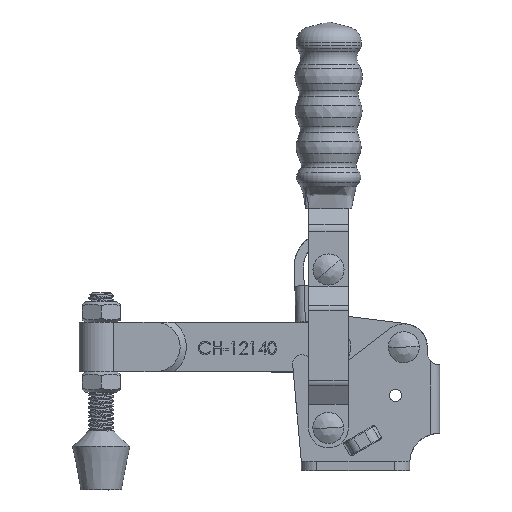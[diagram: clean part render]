
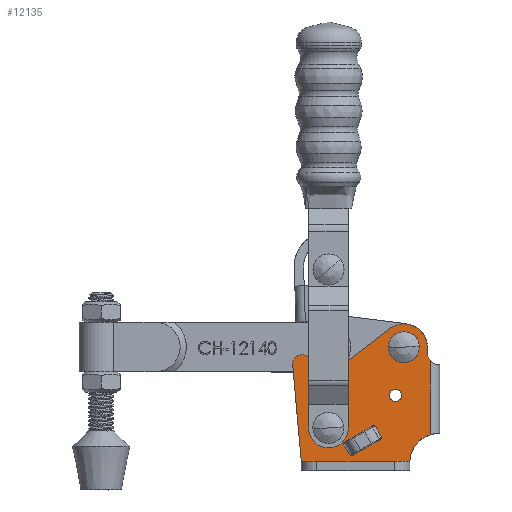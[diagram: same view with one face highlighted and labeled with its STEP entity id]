
A CAD part, top view. The second image highlights one B-rep face of the part: STEP entity #12135.
In plain terms, the highlighted planar face has unit normal (0, 0, 1).
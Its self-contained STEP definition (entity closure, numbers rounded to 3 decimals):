
#333=FACE_BOUND('',#2015,.T.);
#334=FACE_BOUND('',#2016,.T.);
#335=FACE_BOUND('',#2017,.T.);
#336=FACE_BOUND('',#2018,.T.);
#650=PLANE('',#13139);
#1305=FACE_OUTER_BOUND('',#2014,.T.);
#2014=EDGE_LOOP('',(#11013,#11014,#11015,#11016,#11017,#11018,#11019,#11020,
#11021,#11022,#11023,#11024));
#2015=EDGE_LOOP('',(#11025,#11026));
#2016=EDGE_LOOP('',(#11027,#11028));
#2017=EDGE_LOOP('',(#11029,#11030));
#2018=EDGE_LOOP('',(#11031,#11032,#11033,#11034,#11035,#11036,#11037,#11038));
#2380=CIRCLE('',#13114,3.);
#2382=CIRCLE('',#13117,1.95);
#2385=CIRCLE('',#13120,1.95);
#2386=CIRCLE('',#13122,3.2);
#2389=CIRCLE('',#13125,3.2);
#2390=CIRCLE('',#13127,3.2);
#2393=CIRCLE('',#13130,3.2);
#2400=CIRCLE('',#13140,9.5);
#2401=CIRCLE('',#13141,4.);
#2402=CIRCLE('',#13142,7.5);
#2403=CIRCLE('',#13143,7.);
#2898=B_SPLINE_CURVE_WITH_KNOTS('',3,(#45287,#45288,#45289,#45290),
 .UNSPECIFIED.,.F.,.F.,(4,4),(-0.085,0.),.UNSPECIFIED.);
#2899=B_SPLINE_CURVE_WITH_KNOTS('',3,(#45294,#45295,#45296,#45297),
 .UNSPECIFIED.,.F.,.F.,(4,4),(-0.278,-0.193),
 .UNSPECIFIED.);
#2900=B_SPLINE_CURVE_WITH_KNOTS('',3,(#45301,#45302,#45303,#45304),
 .UNSPECIFIED.,.F.,.F.,(4,4),(-0.085,0.),.UNSPECIFIED.);
#2901=B_SPLINE_CURVE_WITH_KNOTS('',3,(#45307,#45308,#45309,#45310),
 .UNSPECIFIED.,.F.,.F.,(4,4),(-0.278,-0.193),
 .UNSPECIFIED.);
#3777=LINE('',#45264,#4741);
#3778=LINE('',#45266,#4742);
#3779=LINE('',#45270,#4743);
#3780=LINE('',#45274,#4744);
#3781=LINE('',#45278,#4745);
#3782=LINE('',#45281,#4746);
#3783=LINE('',#45282,#4747);
#3784=LINE('',#45285,#4748);
#3785=LINE('',#45292,#4749);
#3786=LINE('',#45299,#4750);
#3787=LINE('',#45306,#4751);
#4741=VECTOR('',#15589,1000.);
#4742=VECTOR('',#15590,1000.);
#4743=VECTOR('',#15593,1000.);
#4744=VECTOR('',#15596,1000.);
#4745=VECTOR('',#15599,1000.);
#4746=VECTOR('',#15602,1000.);
#4747=VECTOR('',#15603,1000.);
#4748=VECTOR('',#15604,1000.);
#4749=VECTOR('',#15605,1000.);
#4750=VECTOR('',#15606,1000.);
#4751=VECTOR('',#15607,1000.);
#5906=VERTEX_POINT('',#45184);
#5907=VERTEX_POINT('',#45185);
#5910=VERTEX_POINT('',#45193);
#5911=VERTEX_POINT('',#45194);
#5914=VERTEX_POINT('',#45203);
#5915=VERTEX_POINT('',#45204);
#5918=VERTEX_POINT('',#45213);
#5919=VERTEX_POINT('',#45214);
#5940=VERTEX_POINT('',#45262);
#5941=VERTEX_POINT('',#45263);
#5942=VERTEX_POINT('',#45265);
#5943=VERTEX_POINT('',#45267);
#5944=VERTEX_POINT('',#45269);
#5945=VERTEX_POINT('',#45271);
#5946=VERTEX_POINT('',#45273);
#5947=VERTEX_POINT('',#45275);
#5948=VERTEX_POINT('',#45277);
#5949=VERTEX_POINT('',#45279);
#5950=VERTEX_POINT('',#45283);
#5951=VERTEX_POINT('',#45284);
#5952=VERTEX_POINT('',#45286);
#5953=VERTEX_POINT('',#45291);
#5954=VERTEX_POINT('',#45293);
#5955=VERTEX_POINT('',#45298);
#5956=VERTEX_POINT('',#45300);
#5957=VERTEX_POINT('',#45305);
#7624=EDGE_CURVE('',#5906,#5907,#2380,.T.);
#7628=EDGE_CURVE('',#5910,#5911,#2382,.T.);
#7632=EDGE_CURVE('',#5911,#5910,#2385,.T.);
#7633=EDGE_CURVE('',#5914,#5915,#2386,.T.);
#7637=EDGE_CURVE('',#5915,#5914,#2389,.T.);
#7638=EDGE_CURVE('',#5918,#5919,#2390,.T.);
#7642=EDGE_CURVE('',#5919,#5918,#2393,.T.);
#7662=EDGE_CURVE('',#5940,#5941,#3777,.T.);
#7663=EDGE_CURVE('',#5942,#5940,#3778,.T.);
#7664=EDGE_CURVE('',#5942,#5943,#2400,.T.);
#7665=EDGE_CURVE('',#5943,#5944,#3779,.T.);
#7666=EDGE_CURVE('',#5944,#5945,#2401,.T.);
#7667=EDGE_CURVE('',#5945,#5946,#3780,.T.);
#7668=EDGE_CURVE('',#5946,#5947,#2402,.T.);
#7669=EDGE_CURVE('',#5947,#5948,#3781,.T.);
#7670=EDGE_CURVE('',#5948,#5949,#2403,.T.);
#7671=EDGE_CURVE('',#5949,#5906,#3782,.T.);
#7672=EDGE_CURVE('',#5907,#5941,#3783,.T.);
#7673=EDGE_CURVE('',#5950,#5951,#3784,.T.);
#7674=EDGE_CURVE('',#5950,#5952,#2898,.T.);
#7675=EDGE_CURVE('',#5952,#5953,#3785,.T.);
#7676=EDGE_CURVE('',#5953,#5954,#2899,.T.);
#7677=EDGE_CURVE('',#5955,#5954,#3786,.T.);
#7678=EDGE_CURVE('',#5955,#5956,#2900,.T.);
#7679=EDGE_CURVE('',#5956,#5957,#3787,.T.);
#7680=EDGE_CURVE('',#5957,#5951,#2901,.T.);
#11013=ORIENTED_EDGE('',*,*,#7662,.F.);
#11014=ORIENTED_EDGE('',*,*,#7663,.F.);
#11015=ORIENTED_EDGE('',*,*,#7664,.T.);
#11016=ORIENTED_EDGE('',*,*,#7665,.T.);
#11017=ORIENTED_EDGE('',*,*,#7666,.T.);
#11018=ORIENTED_EDGE('',*,*,#7667,.T.);
#11019=ORIENTED_EDGE('',*,*,#7668,.T.);
#11020=ORIENTED_EDGE('',*,*,#7669,.T.);
#11021=ORIENTED_EDGE('',*,*,#7670,.T.);
#11022=ORIENTED_EDGE('',*,*,#7671,.T.);
#11023=ORIENTED_EDGE('',*,*,#7624,.T.);
#11024=ORIENTED_EDGE('',*,*,#7672,.T.);
#11025=ORIENTED_EDGE('',*,*,#7633,.F.);
#11026=ORIENTED_EDGE('',*,*,#7637,.F.);
#11027=ORIENTED_EDGE('',*,*,#7638,.F.);
#11028=ORIENTED_EDGE('',*,*,#7642,.F.);
#11029=ORIENTED_EDGE('',*,*,#7628,.F.);
#11030=ORIENTED_EDGE('',*,*,#7632,.F.);
#11031=ORIENTED_EDGE('',*,*,#7673,.F.);
#11032=ORIENTED_EDGE('',*,*,#7674,.T.);
#11033=ORIENTED_EDGE('',*,*,#7675,.T.);
#11034=ORIENTED_EDGE('',*,*,#7676,.T.);
#11035=ORIENTED_EDGE('',*,*,#7677,.F.);
#11036=ORIENTED_EDGE('',*,*,#7678,.T.);
#11037=ORIENTED_EDGE('',*,*,#7679,.T.);
#11038=ORIENTED_EDGE('',*,*,#7680,.T.);
#12135=ADVANCED_FACE('',(#1305,#333,#334,#335,#336),#650,.T.);
#13114=AXIS2_PLACEMENT_3D('',#45186,#15519,#15520);
#13117=AXIS2_PLACEMENT_3D('',#45195,#15527,#15528);
#13120=AXIS2_PLACEMENT_3D('',#45201,#15534,#15535);
#13122=AXIS2_PLACEMENT_3D('',#45205,#15538,#15539);
#13125=AXIS2_PLACEMENT_3D('',#45211,#15545,#15546);
#13127=AXIS2_PLACEMENT_3D('',#45215,#15549,#15550);
#13130=AXIS2_PLACEMENT_3D('',#45221,#15556,#15557);
#13139=AXIS2_PLACEMENT_3D('',#45261,#15587,#15588);
#13140=AXIS2_PLACEMENT_3D('',#45268,#15591,#15592);
#13141=AXIS2_PLACEMENT_3D('',#45272,#15594,#15595);
#13142=AXIS2_PLACEMENT_3D('',#45276,#15597,#15598);
#13143=AXIS2_PLACEMENT_3D('',#45280,#15600,#15601);
#15519=DIRECTION('center_axis',(0.,0.,1.));
#15520=DIRECTION('ref_axis',(1.,0.,0.));
#15527=DIRECTION('center_axis',(0.,0.,1.));
#15528=DIRECTION('ref_axis',(1.,0.,0.));
#15534=DIRECTION('center_axis',(0.,0.,1.));
#15535=DIRECTION('ref_axis',(1.,0.,0.));
#15538=DIRECTION('center_axis',(0.,0.,1.));
#15539=DIRECTION('ref_axis',(1.,0.,0.));
#15545=DIRECTION('center_axis',(0.,0.,1.));
#15546=DIRECTION('ref_axis',(1.,0.,0.));
#15549=DIRECTION('center_axis',(0.,0.,1.));
#15550=DIRECTION('ref_axis',(1.,0.,0.));
#15556=DIRECTION('center_axis',(0.,0.,1.));
#15557=DIRECTION('ref_axis',(1.,0.,0.));
#15587=DIRECTION('center_axis',(0.,0.,1.));
#15588=DIRECTION('ref_axis',(1.,0.,0.));
#15589=DIRECTION('',(-1.,0.,0.));
#15590=DIRECTION('',(0.,1.,0.));
#15591=DIRECTION('center_axis',(0.,0.,-1.));
#15592=DIRECTION('ref_axis',(1.,0.,0.));
#15593=DIRECTION('',(0.,1.,0.));
#15594=DIRECTION('center_axis',(0.,0.,-1.));
#15595=DIRECTION('ref_axis',(1.,0.,0.));
#15596=DIRECTION('',(0.,1.,0.));
#15597=DIRECTION('center_axis',(0.,0.,1.));
#15598=DIRECTION('ref_axis',(1.,0.,0.));
#15599=DIRECTION('',(-0.792,-0.611,0.));
#15600=DIRECTION('center_axis',(0.,0.,-1.));
#15601=DIRECTION('ref_axis',(1.,0.,0.));
#15602=DIRECTION('',(-0.677,0.736,0.));
#15603=DIRECTION('',(0.09,-0.996,0.));
#15604=DIRECTION('',(0.866,0.5,0.));
#15605=DIRECTION('',(-0.5,0.866,0.));
#15606=DIRECTION('',(-0.866,-0.5,0.));
#15607=DIRECTION('',(0.5,-0.866,0.));
#45184=CARTESIAN_POINT('',(-32.494,36.33,12.));
#45185=CARTESIAN_POINT('',(-37.691,34.031,12.));
#45186=CARTESIAN_POINT('Origin',(-34.703,34.3,12.));
#45193=CARTESIAN_POINT('',(-6.55,24.2,12.));
#45194=CARTESIAN_POINT('',(-2.65,24.2,12.));
#45195=CARTESIAN_POINT('Origin',(-4.6,24.2,12.));
#45201=CARTESIAN_POINT('Origin',(-4.6,24.2,12.));
#45203=CARTESIAN_POINT('',(-29.4,13.7,12.));
#45204=CARTESIAN_POINT('',(-23.,13.7,12.));
#45205=CARTESIAN_POINT('Origin',(-26.2,13.7,12.));
#45211=CARTESIAN_POINT('Origin',(-26.2,13.7,12.));
#45213=CARTESIAN_POINT('',(-5.1,39.7,12.));
#45214=CARTESIAN_POINT('',(1.3,39.7,12.));
#45215=CARTESIAN_POINT('Origin',(-1.9,39.7,12.));
#45221=CARTESIAN_POINT('Origin',(-1.9,39.7,12.));
#45261=CARTESIAN_POINT('Origin',(9.5,2.5,12.));
#45262=CARTESIAN_POINT('',(0.,3.,12.));
#45263=CARTESIAN_POINT('',(-34.9,3.,12.));
#45264=CARTESIAN_POINT('',(0.,3.,12.));
#45265=CARTESIAN_POINT('',(0.,2.5,12.));
#45266=CARTESIAN_POINT('',(0.,0.,12.));
#45267=CARTESIAN_POINT('',(6.6,11.547,12.));
#45268=CARTESIAN_POINT('Origin',(9.5,2.5,12.));
#45269=CARTESIAN_POINT('',(6.6,35.354,12.));
#45270=CARTESIAN_POINT('',(6.6,34.,12.));
#45271=CARTESIAN_POINT('',(5.6,38.,12.));
#45272=CARTESIAN_POINT('Origin',(9.6,38.,12.));
#45273=CARTESIAN_POINT('',(5.6,39.7,12.));
#45274=CARTESIAN_POINT('',(5.6,39.7,12.));
#45275=CARTESIAN_POINT('',(-6.481,45.639,12.));
#45276=CARTESIAN_POINT('Origin',(-1.9,39.7,12.));
#45277=CARTESIAN_POINT('',(-21.625,33.957,12.));
#45278=CARTESIAN_POINT('',(-21.625,33.957,12.));
#45279=CARTESIAN_POINT('',(-31.053,34.763,12.));
#45280=CARTESIAN_POINT('Origin',(-25.9,39.5,12.));
#45281=CARTESIAN_POINT('',(-32.494,36.33,12.));
#45282=CARTESIAN_POINT('',(-34.9,3.,12.));
#45283=CARTESIAN_POINT('',(-18.317,4.914,12.));
#45284=CARTESIAN_POINT('',(-9.583,9.956,12.));
#45285=CARTESIAN_POINT('',(-18.28,4.935,12.));
#45286=CARTESIAN_POINT('',(-19.186,4.758,12.));
#45287=CARTESIAN_POINT('Ctrl Pts',(-18.317,4.914,12.));
#45288=CARTESIAN_POINT('Ctrl Pts',(-18.562,4.772,12.));
#45289=CARTESIAN_POINT('Ctrl Pts',(-18.903,4.765,12.));
#45290=CARTESIAN_POINT('Ctrl Pts',(-19.186,4.758,12.));
#45291=CARTESIAN_POINT('',(-21.386,8.569,12.));
#45292=CARTESIAN_POINT('',(-21.536,8.829,12.));
#45293=CARTESIAN_POINT('',(-20.817,9.244,12.));
#45294=CARTESIAN_POINT('Ctrl Pts',(-21.386,8.569,12.));
#45295=CARTESIAN_POINT('Ctrl Pts',(-21.239,8.811,12.));
#45296=CARTESIAN_POINT('Ctrl Pts',(-21.062,9.102,12.));
#45297=CARTESIAN_POINT('Ctrl Pts',(-20.817,9.244,12.));
#45298=CARTESIAN_POINT('',(-12.083,14.286,12.));
#45299=CARTESIAN_POINT('',(-20.78,9.265,12.));
#45300=CARTESIAN_POINT('',(-11.214,14.442,12.));
#45301=CARTESIAN_POINT('Ctrl Pts',(-12.083,14.286,12.));
#45302=CARTESIAN_POINT('Ctrl Pts',(-11.838,14.428,12.));
#45303=CARTESIAN_POINT('Ctrl Pts',(-11.497,14.435,12.));
#45304=CARTESIAN_POINT('Ctrl Pts',(-11.214,14.442,12.));
#45305=CARTESIAN_POINT('',(-9.014,10.631,12.));
#45306=CARTESIAN_POINT('',(-8.864,10.371,12.));
#45307=CARTESIAN_POINT('Ctrl Pts',(-9.014,10.631,12.));
#45308=CARTESIAN_POINT('Ctrl Pts',(-9.161,10.389,12.));
#45309=CARTESIAN_POINT('Ctrl Pts',(-9.338,10.098,12.));
#45310=CARTESIAN_POINT('Ctrl Pts',(-9.583,9.956,12.));
